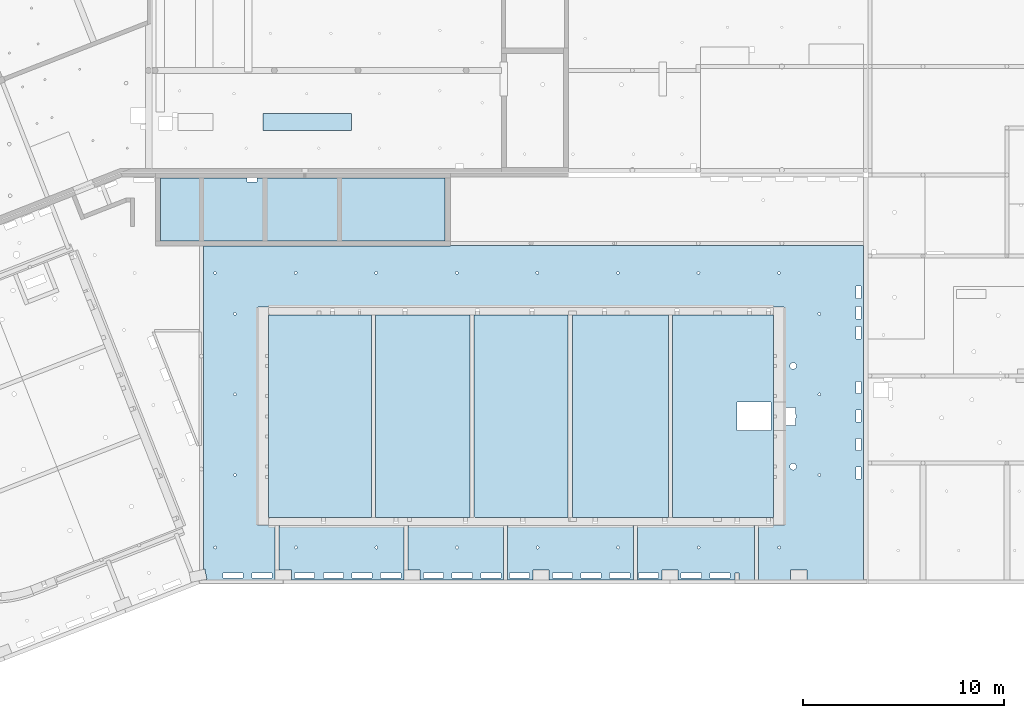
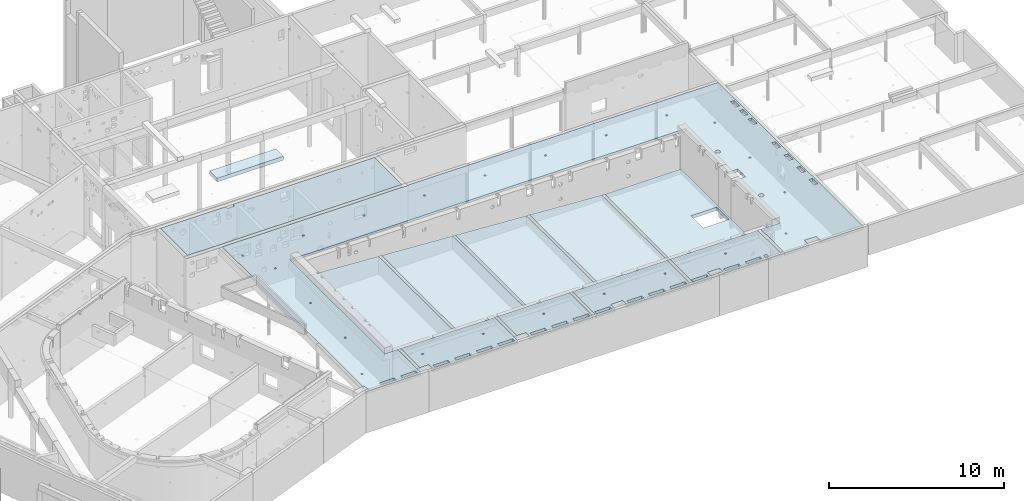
# One storey, part 9 of 28: 6 slabs, 51 openings.
"""IFC2X3 building model written with IfcOpenShell, lengths in metres."""

import ifcopenshell
import ifcopenshell.guid

model = None  # the IFC model being written
_history = None  # IfcOwnerHistory: only IFC2X3 demands one
_inside = {}  # id of a spatial element -> (the spatial element, [elements in it])
_under = {}  # id of a project, library or spatial element -> (it, [spatial elements below it])
_declared = {}  # id of a project -> (the project, [libraries it declares])
_typed = {}  # id of a type object -> (the type object, [elements of that type])
_made_of = {}  # id of a material, layer set ... -> (it, [elements and type objects made of it])


def new_model(schema):
    """Start an empty IFC model of exactly this schema.

    Asked for "IFC4X3", IfcOpenShell would pick the latest addendum, in which some entities
    have other attributes; the version numbers below select the first issue.
    IFC2X3 requires an IfcOwnerHistory on every rooted entity: one is made here for all.
    """
    global model, _history
    if schema == "IFC4X3":
        model = ifcopenshell.file(schema_version=(4, 3, 0, 0))
    else:
        model = ifcopenshell.file(schema=schema)
    _inside.clear()
    _under.clear()
    _declared.clear()
    _typed.clear()
    _made_of.clear()
    _history = None
    if model.schema == "IFC2X3":
        org = make("IfcOrganization", Name="unknown")
        user = make(
            "IfcPersonAndOrganization",
            ThePerson=make("IfcPerson", FamilyName="unknown"),
            TheOrganization=org,
        )
        app = make(
            "IfcApplication",
            ApplicationDeveloper=org,
            Version="unknown",
            ApplicationFullName="unknown",
            ApplicationIdentifier="unknown",
        )
        _history = make(
            "IfcOwnerHistory",
            OwningUser=user,
            OwningApplication=app,
            ChangeAction="ADDED",
            CreationDate=0,
        )
    return model


def make(cls, **values):
    """One entity of the class cls with the attributes given. An attribute that is None is left unset."""
    return model.create_entity(
        cls, **{name: value for name, value in values.items() if value is not None}
    )


def entity(cls, *values):
    """Any entity or typed value of the class cls, its attributes in the order of the schema. None: left unset."""
    e = model.create_entity(cls)
    for i, value in enumerate(values):
        if value is not None:
            e[i] = value
    return e


def rooted(cls, **values):
    """An entity with a GlobalId (a new one), such as an element, a storey or a relation."""
    return make(cls, GlobalId=ifcopenshell.guid.new(), OwnerHistory=_history, **values)


def si_unit(unit_type, name, prefix=None):
    """IfcSIUnit, for example si_unit("LENGTHUNIT", "METRE", prefix="MILLI")."""
    return make("IfcSIUnit", UnitType=unit_type, Prefix=prefix, Name=name)


def converted_unit(unit_type, name, factor, base, dimensions=None, offset=None):
    """IfcConversionBasedUnit, such as the inch: factor (a typed value) times the base unit."""
    return make(
        "IfcConversionBasedUnit"
        if offset is None
        else "IfcConversionBasedUnitWithOffset",
        ConversionOffset=offset,
        Dimensions=None
        if dimensions is None
        else entity("IfcDimensionalExponents", *dimensions),
        UnitType=unit_type,
        Name=name,
        ConversionFactor=make(
            "IfcMeasureWithUnit", ValueComponent=factor, UnitComponent=base
        ),
    )


def assignment(units):
    """IfcUnitAssignment: the units of a project."""
    return None if units is None else make("IfcUnitAssignment", Units=units)


def point(xyz):
    """IfcCartesianPoint."""
    return None if xyz is None else make("IfcCartesianPoint", Coordinates=xyz)


def direction(xyz):
    """IfcDirection."""
    return None if xyz is None else make("IfcDirection", DirectionRatios=xyz)


def frame(location, z_axis=None, x_axis=None):
    """IfcAxis2Placement3D, a coordinate frame: its origin and axes. An axis left out is left unset."""
    return make(
        "IfcAxis2Placement3D",
        Location=point(location),
        Axis=direction(z_axis),
        RefDirection=direction(x_axis),
    )


def frame_2d(location, x_axis=None):
    """IfcAxis2Placement2D, a coordinate frame in the plane: its origin and x axis."""
    return make(
        "IfcAxis2Placement2D", Location=point(location), RefDirection=direction(x_axis)
    )


def origin():
    """The frame at (0, 0, 0) with its axes left unset."""
    return frame((0.0, 0.0, 0.0))


def origin_with_axes():
    """The frame at (0, 0, 0) with the z axis (0, 0, 1) and the x axis (1, 0, 0) written out."""
    return frame((0.0, 0.0, 0.0), z_axis=(0.0, 0.0, 1.0), x_axis=(1.0, 0.0, 0.0))


def origin_2d_with_axis():
    """The frame at (0, 0) in the plane with the x axis (1, 0) written out."""
    return frame_2d((0.0, 0.0), x_axis=(1.0, 0.0))


def place(relative_to, where):
    """IfcLocalPlacement: puts the frame where relative to a parent placement (None: the world)."""
    return make(
        "IfcLocalPlacement", PlacementRelTo=relative_to, RelativePlacement=where
    )


def context(
    kind, dimensions, precision=None, world=None, true_north=None, identifier=None
):
    """IfcGeometricRepresentationContext, for example the 3D "Model" context."""
    return make(
        "IfcGeometricRepresentationContext",
        ContextIdentifier=identifier,
        ContextType=kind,
        CoordinateSpaceDimension=dimensions,
        Precision=precision,
        WorldCoordinateSystem=world,
        TrueNorth=true_north,
    )


def subcontext(parent, identifier, kind, view, scale=None):
    """IfcGeometricRepresentationSubContext, for example "Body" below "Model"."""
    return make(
        "IfcGeometricRepresentationSubContext",
        ContextIdentifier=identifier,
        ContextType=kind,
        ParentContext=parent,
        TargetScale=scale,
        TargetView=view,
    )


def project(units=None, contexts=None):
    """IfcProject with its units and contexts."""
    return rooted(
        "IfcProject",
        Name="project",
        RepresentationContexts=contexts,
        UnitsInContext=assignment(units),
    )


def spatial(cls, under=None, at=None, **own):
    """A site, building, storey or space (cls), placed at a placement, below another one or the project."""
    s = rooted(cls, ObjectPlacement=at, **own)
    if under is not None:
        _under.setdefault(under.id(), (under, []))[1].append(s)
    return s


def polyline(points):
    """IfcPolyline through the points."""
    return make("IfcPolyline", Points=[point(p) for p in points])


def profile(cls, at=None, kind="AREA", **sizes):
    """A parametric profile (cls). Its sizes go by their IFC names, for example OverallWidth=200.0."""
    return make(cls, ProfileType=kind, Position=at, **sizes)


def rectangle(**sizes):
    """IfcRectangleProfileDef."""
    return profile("IfcRectangleProfileDef", **sizes)


def circle(**sizes):
    """IfcCircleProfileDef."""
    return profile("IfcCircleProfileDef", **sizes)


def outline(outer, holes=None, kind="AREA"):
    """IfcArbitraryClosedProfileDef: a profile drawn as a closed curve; with holes, ...WithVoids."""
    if holes is None:
        return make("IfcArbitraryClosedProfileDef", ProfileType=kind, OuterCurve=outer)
    return make(
        "IfcArbitraryProfileDefWithVoids",
        ProfileType=kind,
        OuterCurve=outer,
        InnerCurves=holes,
    )


def extrude(swept, where, along, depth):
    """IfcExtrudedAreaSolid: the profile swept, set in the frame where, extruded along a direction by depth."""
    return make(
        "IfcExtrudedAreaSolid",
        SweptArea=swept,
        Position=where,
        ExtrudedDirection=direction(along),
        Depth=depth,
    )


def shape(context_of_items, identifier, shape_type, items):
    """IfcShapeRepresentation: the items that make up one representation, for example the "Body"."""
    return make(
        "IfcShapeRepresentation",
        ContextOfItems=context_of_items,
        RepresentationIdentifier=identifier,
        RepresentationType=shape_type,
        Items=items,
    )


def material(Name=None, Category=None):
    """IfcMaterial."""
    return make("IfcMaterial", Name=Name, Category=Category)


def made_of(thing, what):
    """Note that an element or type object is made of a material, layer set ...; save() writes the relation."""
    if what is not None:
        _made_of.setdefault(what.id(), (what, []))[1].append(thing)
    return thing


def element(
    cls,
    number,
    at=None,
    inside=None,
    cuts=None,
    type_object=None,
    material=None,
    context=None,
    identifier="Body",
    shape_type=None,
    held_by="IfcProductDefinitionShape",
    body=None,
    shapes=None,
    **own,
):
    """One element of the class cls, such as IfcWall. Its Tag is "e" and its number.

    at: its placement. inside: the storey or other place that contains it. cuts: it is an
    opening in that element (IfcRelVoidsElement). A single representation is given by context,
    identifier, shape_type and body (its items); several are given by shapes. held_by: the class
    of the entity that holds the representations. save() writes the other relations.
    """
    e = rooted(cls, Tag="e%d" % number, ObjectPlacement=at, **own)
    if body is not None:
        shapes = [shape(context, identifier, shape_type, body)]
    if shapes is not None:
        e.Representation = make(held_by, Representations=shapes)
    if inside is not None:
        _inside.setdefault(inside.id(), (inside, []))[1].append(e)
    if cuts is not None:
        rooted(
            "IfcRelVoidsElement", RelatingBuildingElement=cuts, RelatedOpeningElement=e
        )
    if type_object is not None:
        _typed.setdefault(type_object.id(), (type_object, []))[1].append(e)
    return made_of(e, material)


def aggregate(whole, parts):
    """IfcRelAggregates: a whole, such as a stair, and the parts it consists of."""
    return rooted("IfcRelAggregates", RelatingObject=whole, RelatedObjects=parts)


def save(model, path):
    """Write the relations noted so far, then the file.

    IfcRelAggregates (storeys below a building ...), IfcRelContainedInSpatialStructure (elements
    in a storey), IfcRelDefinesByType, IfcRelAssociatesMaterial and IfcRelDeclares: one each for
    every whole, place, type object, material and project.
    """
    for whole, parts in _under.values():
        aggregate(whole, parts)
    for where, things in _inside.values():
        rooted(
            "IfcRelContainedInSpatialStructure",
            RelatedElements=things,
            RelatingStructure=where,
        )
    for kind, things in _typed.values():
        rooted("IfcRelDefinesByType", RelatedObjects=things, RelatingType=kind)
    for what, things in _made_of.values():
        rooted("IfcRelAssociatesMaterial", RelatedObjects=things, RelatingMaterial=what)
    for by, libraries in _declared.values():
        rooted("IfcRelDeclares", RelatingContext=by, RelatedDefinitions=libraries)
    model.write(path)


model = new_model("IFC2X3")

# Units and contexts
model_context = context("Model", 3, precision=1e-05, world=origin(), true_north=direction((-0.407059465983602, -0.913401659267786)))
body_context = subcontext(model_context, "Body", "Model", "MODEL_VIEW")
ifc_project = project(units=[si_unit("LENGTHUNIT", "METRE"), si_unit("AREAUNIT", "SQUARE_METRE"), si_unit("VOLUMEUNIT", "CUBIC_METRE"), si_unit("MASSUNIT", "GRAM", prefix="KILO"), converted_unit("PLANEANGLEUNIT", "DEGREE", entity("IfcPlaneAngleMeasure", 0.0174532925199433), si_unit("PLANEANGLEUNIT", "RADIAN"), dimensions=[0, 0, 0, 0, 0, 0, 0])], contexts=[model_context])

# Site, buildings, storey
site_placement = place(None, origin())
site = spatial("IfcSite", under=ifc_project, at=site_placement, Name="Site", CompositionType="ELEMENT")
building_1_placement = place(site_placement, origin())
building_1 = spatial("IfcBuilding", under=site, at=building_1_placement, Name="Site", CompositionType="COMPLEX")
building_2_placement = place(building_1_placement, origin())
building_2 = spatial("IfcBuilding", under=building_1, at=building_2_placement, Name="Bâtiments", CompositionType="ELEMENT")
storey_placement = place(building_2_placement, frame((0.0, 0.0, -5.3)))
storey = spatial("IfcBuildingStorey", under=building_2, at=storey_placement, Name="SOUS-SOL", CompositionType="ELEMENT", Elevation=-5.3)

# Slab
ifc_material_1 = material(Name="Dalle_BA")
slab_1_placement = place(storey_placement, frame((33.4095422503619, -3.1373755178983, 5.18)))
element("IfcSlab", 1, at=slab_1_placement, inside=storey, material=ifc_material_1, PredefinedType="FLOOR", context=body_context, shape_type="SweptSolid", body=[
    extrude(rectangle(XDim=0.860000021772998, YDim=4.385, at=frame_2d((2.1925, -0.430000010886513), x_axis=(0.0, -1.0))), frame((0.0, 0.860000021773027, 0.0), z_axis=(0.0, 0.0, 1.0), x_axis=(1.0, 0.0, 0.0)), (0.0, 0.0, 1.0), 0.26),
])

# Slab, openings
ifc_material_2 = material(Name="Dalle_BA")
slab_2_placement = place(storey_placement, frame((34.2084466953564, -25.4449220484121, 4.96)))
slab_2 = element("IfcSlab", 2, at=slab_2_placement, inside=storey, material=ifc_material_2, PredefinedType="FLOOR", context=body_context, shape_type="SweptSolid", body=[
    extrude(outline(polyline([(1.26235432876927, 0.500018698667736), (2.0623543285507, 0.499999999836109), (2.06234264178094, 0.0), (6.24956987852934, 0.0), (6.24956987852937, 2.69561619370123), (0.0, 2.69561619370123), (2.91038304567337e-14, 0.0), (1.26234264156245, 0.0), (1.26235432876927, 0.500018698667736)])), frame((11.3353680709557, 0.0, 0.0), z_axis=(0.0, 0.0, 1.0), x_axis=(1.0, 0.0, 0.0)), (0.0, 0.0, 1.0), 0.2),
    extrude(outline(polyline([(2.18278728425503e-14, 0.500014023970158), (0.600000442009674, 0.499999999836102), (0.599988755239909, 0.0), (6.19880320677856, 0.0), (6.19881489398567, 0.500018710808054), (6.19881489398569, 2.69561619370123), (0.0, 2.69561619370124), (2.18278728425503e-14, 0.500014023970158)])), origin_with_axes(), (0.0, 0.0, 1.0), 0.2),
    extrude(outline(polyline([(1.21160579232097, 0.0), (1.21161747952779, 0.500018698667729), (2.01161747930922, 0.499999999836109), (2.01160579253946, 0.0), (4.8426022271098, 0.0), (4.84257973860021, 0.352691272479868), (5.04257973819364, 0.352704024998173), (5.04260222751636, 0.0), (5.80000044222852, 0.0), (5.80000044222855, 2.69561619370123), (0.0, 2.69561619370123), (2.91038304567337e-14, 0.0), (1.21160579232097, 0.0)])), frame((17.7849375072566, 0.0, 0.0), z_axis=(0.0, 0.0, 1.0), x_axis=(1.0, 0.0, 0.0)), (0.0, 0.0, 1.0), 0.2),
    extrude(outline(polyline([(4.73655406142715, 2.69561619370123), (0.0, 2.69561619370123), (2.18278728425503e-14, 0.500014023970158), (0.600000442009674, 0.499999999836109), (0.599988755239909, 0.0), (4.73655406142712, 0.0), (4.73655406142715, 2.69561619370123)])), frame((6.39881445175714, 0.0, 0.0), z_axis=(0.0, 0.0, 1.0), x_axis=(1.0, 0.0, 0.0)), (0.0, 0.0, 1.0), 0.2),
])
opening_1_placement = place(slab_2_placement, frame((21.3842891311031, 0.090886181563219, 0.0)))
element("IfcOpeningElement", 3, at=opening_1_placement, cuts=slab_2, Name="Trémie dans dalle", ObjectType="Opening", context=body_context, shape_type="SweptSolid", body=[
    extrude(rectangle(XDim=0.25, YDim=1.0, at=frame_2d((-7.27595761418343e-15, -3.63797880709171e-15), x_axis=(0.0, -1.0))), frame((0.500000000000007, 0.125000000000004, 0.0), z_axis=(0.0, 0.0, 1.0), x_axis=(1.0, 0.0, 0.0)), (0.0, 0.0, 1.0), 0.2),
])
opening_2_placement = place(slab_2_placement, frame((19.9592891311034, 0.0908872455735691, 0.0)))
element("IfcOpeningElement", 4, at=opening_2_placement, cuts=slab_2, Name="Trémie dans dalle", ObjectType="Opening", context=body_context, shape_type="SweptSolid", body=[
    extrude(rectangle(XDim=0.25, YDim=1.0, at=frame_2d((-1.45519152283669e-14, 0.0), x_axis=(0.0, -1.0))), frame((0.500000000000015, 0.125, 0.0), z_axis=(0.0, 0.0, 1.0), x_axis=(1.0, 0.0, 0.0)), (0.0, 0.0, 1.0), 0.2),
])
opening_3_placement = place(slab_2_placement, frame((17.8342886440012, 0.0920111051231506, 0.0)))
element("IfcOpeningElement", 5, at=opening_3_placement, cuts=slab_2, Name="Trémie dans dalle", ObjectType="Opening", context=body_context, shape_type="SweptSolid", body=[
    extrude(rectangle(XDim=0.25, YDim=1.0, at=frame_2d((0.0, 0.0), x_axis=(0.0, -1.0))), frame((0.5, 0.125, 0.0), z_axis=(0.0, 0.0, 1.0), x_axis=(1.0, 0.0, 0.0)), (0.0, 0.0, 1.0), 0.2),
])
opening_4_placement = place(slab_2_placement, frame((16.4092886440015, 0.0908861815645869, 0.0)))
element("IfcOpeningElement", 6, at=opening_4_placement, cuts=slab_2, Name="Trémie dans dalle", ObjectType="Opening", context=body_context, shape_type="SweptSolid", body=[
    extrude(rectangle(XDim=0.25, YDim=1.0, at=frame_2d((0.0, -3.63797880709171e-15), x_axis=(0.0, -1.0))), frame((0.5, 0.125000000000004, 0.0), z_axis=(0.0, 0.0, 1.0), x_axis=(1.0, 0.0, 0.0)), (0.0, 0.0, 1.0), 0.2),
])
opening_5_placement = place(slab_2_placement, frame((14.9854710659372, 0.090886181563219, 0.0)))
element("IfcOpeningElement", 7, at=opening_5_placement, cuts=slab_2, Name="Trémie dans dalle", ObjectType="Opening", context=body_context, shape_type="SweptSolid", body=[
    extrude(rectangle(XDim=0.25, YDim=1.0, at=frame_2d((0.0, -3.63797880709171e-15), x_axis=(0.0, -1.0))), frame((0.5, 0.125000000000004, 0.0), z_axis=(0.0, 0.0, 1.0), x_axis=(1.0, 0.0, 0.0)), (0.0, 0.0, 1.0), 0.2),
])
opening_6_placement = place(slab_2_placement, frame((13.5604710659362, 0.090886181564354, 0.0)))
element("IfcOpeningElement", 8, at=opening_6_placement, cuts=slab_2, Name="Trémie dans dalle", ObjectType="Opening", context=body_context, shape_type="SweptSolid", body=[
    extrude(rectangle(XDim=0.25, YDim=1.0, at=frame_2d((0.0, -3.63797880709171e-15), x_axis=(0.0, -1.0))), frame((0.5, 0.125000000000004, 0.0), z_axis=(0.0, 0.0, 1.0), x_axis=(1.0, 0.0, 0.0)), (0.0, 0.0, 1.0), 0.2),
])
opening_7_placement = place(slab_2_placement, frame((11.4365708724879, 0.090886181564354, 0.0)))
element("IfcOpeningElement", 9, at=opening_7_placement, cuts=slab_2, Name="Trémie dans dalle", ObjectType="Opening", context=body_context, shape_type="SweptSolid", body=[
    extrude(rectangle(XDim=0.25, YDim=1.0, at=frame_2d((0.0, -3.63797880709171e-15), x_axis=(0.0, -1.0))), frame((0.5, 0.125000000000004, 0.0), z_axis=(0.0, 0.0, 1.0), x_axis=(1.0, 0.0, 0.0)), (0.0, 0.0, 1.0), 0.2),
])
opening_8_placement = place(slab_2_placement, frame((10.0115708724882, 0.0908861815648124, 0.0)))
element("IfcOpeningElement", 10, at=opening_8_placement, cuts=slab_2, Name="Trémie dans dalle", ObjectType="Opening", context=body_context, shape_type="SweptSolid", body=[
    extrude(rectangle(XDim=0.25, YDim=1.0, at=frame_2d((0.0, 0.0), x_axis=(0.0, -1.0))), frame((0.5, 0.125, 0.0), z_axis=(0.0, 0.0, 1.0), x_axis=(1.0, 0.0, 0.0)), (0.0, 0.0, 1.0), 0.2),
])
opening_9_placement = place(slab_2_placement, frame((8.58657087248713, 0.0908861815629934, 0.0)))
element("IfcOpeningElement", 11, at=opening_9_placement, cuts=slab_2, Name="Trémie dans dalle", ObjectType="Opening", context=body_context, shape_type="SweptSolid", body=[
    extrude(rectangle(XDim=0.25, YDim=1.0, at=frame_2d((0.0, 0.0), x_axis=(0.0, -1.0))), frame((0.5, 0.125, 0.0), z_axis=(0.0, 0.0, 1.0), x_axis=(1.0, 0.0, 0.0)), (0.0, 0.0, 1.0), 0.2),
])
opening_10_placement = place(slab_2_placement, frame((7.16157087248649, 0.090887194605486, 0.0)))
element("IfcOpeningElement", 12, at=opening_10_placement, cuts=slab_2, Name="Trémie dans dalle", ObjectType="Opening", context=body_context, shape_type="SweptSolid", body=[
    extrude(rectangle(XDim=0.25, YDim=1.0, at=frame_2d((0.0, 0.0), x_axis=(0.0, -1.0))), frame((0.5, 0.125, 0.0), z_axis=(0.0, 0.0, 1.0), x_axis=(1.0, 0.0, 0.0)), (0.0, 0.0, 1.0), 0.2),
])
opening_11_placement = place(slab_2_placement, frame((5.03775281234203, 0.0908861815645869, 0.0)))
element("IfcOpeningElement", 13, at=opening_11_placement, cuts=slab_2, Name="Trémie dans dalle", ObjectType="Opening", context=body_context, shape_type="SweptSolid", body=[
    extrude(rectangle(XDim=0.25, YDim=1.0, at=frame_2d((0.0, -3.63797880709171e-15), x_axis=(0.0, -1.0))), frame((0.5, 0.125000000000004, 0.0), z_axis=(0.0, 0.0, 1.0), x_axis=(1.0, 0.0, 0.0)), (0.0, 0.0, 1.0), 0.2),
])
opening_12_placement = place(slab_2_placement, frame((3.61275281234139, 0.0908861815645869, 0.0)))
element("IfcOpeningElement", 14, at=opening_12_placement, cuts=slab_2, Name="Trémie dans dalle", ObjectType="Opening", context=body_context, shape_type="SweptSolid", body=[
    extrude(rectangle(XDim=0.25, YDim=1.0, at=frame_2d((0.0, -3.63797880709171e-15), x_axis=(0.0, -1.0))), frame((0.5, 0.125000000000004, 0.0), z_axis=(0.0, 0.0, 1.0), x_axis=(1.0, 0.0, 0.0)), (0.0, 0.0, 1.0), 0.2),
])
opening_13_placement = place(slab_2_placement, frame((2.18775281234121, 0.090886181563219, 0.0)))
element("IfcOpeningElement", 15, at=opening_13_placement, cuts=slab_2, Name="Trémie dans dalle", ObjectType="Opening", context=body_context, shape_type="SweptSolid", body=[
    extrude(rectangle(XDim=0.25, YDim=1.0, at=frame_2d((0.0, -3.63797880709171e-15), x_axis=(0.0, -1.0))), frame((0.5, 0.125000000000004, 0.0), z_axis=(0.0, 0.0, 1.0), x_axis=(1.0, 0.0, 0.0)), (0.0, 0.0, 1.0), 0.2),
])
opening_14_placement = place(slab_2_placement, frame((0.762752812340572, 0.090886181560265, 0.0)))
element("IfcOpeningElement", 16, at=opening_14_placement, cuts=slab_2, Name="Trémie dans dalle", ObjectType="Opening", context=body_context, shape_type="SweptSolid", body=[
    extrude(rectangle(XDim=0.25, YDim=1.0, at=frame_2d((0.0, 3.63797880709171e-15), x_axis=(0.0, -1.0))), frame((0.5, 0.124999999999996, 0.0), z_axis=(0.0, 0.0, 1.0), x_axis=(1.0, 0.0, 0.0)), (0.0, 0.0, 1.0), 0.2),
])
opening_15_placement = place(slab_2_placement, frame((20.7599072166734, 1.54600659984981, 0.0)))
element("IfcOpeningElement", 17, at=opening_15_placement, cuts=slab_2, Name="Trémie dans dalle", ObjectType="Opening", context=body_context, shape_type="SweptSolid", body=[
    extrude(circle(Radius=0.0650000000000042, at=frame_2d((-2.18278728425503e-14, 3.63797880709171e-15), x_axis=(1.0, 0.0))), frame((0.0647317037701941, 0.0647317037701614, 0.0), z_axis=(0.0, 0.0, 1.0), x_axis=(1.0, 0.0, 0.0)), (0.0, 0.0, 1.0), 0.2),
])
opening_16_placement = place(slab_2_placement, frame((16.7599435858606, 1.54600659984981, 0.0)))
element("IfcOpeningElement", 18, at=opening_16_placement, cuts=slab_2, Name="Trémie dans dalle", ObjectType="Opening", context=body_context, shape_type="SweptSolid", body=[
    extrude(circle(Radius=0.0650000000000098, at=frame_2d((-1.45519152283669e-14, 3.63797880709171e-15), x_axis=(1.0, 0.0))), frame((0.0647317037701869, 0.0647317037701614, 0.0), z_axis=(0.0, 0.0, 1.0), x_axis=(1.0, 0.0, 0.0)), (0.0, 0.0, 1.0), 0.2),
])
opening_17_placement = place(slab_2_placement, frame((12.7605774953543, 1.54600659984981, 0.0)))
element("IfcOpeningElement", 19, at=opening_17_placement, cuts=slab_2, Name="Trémie dans dalle", ObjectType="Opening", context=body_context, shape_type="SweptSolid", body=[
    extrude(circle(Radius=0.0650000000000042, at=frame_2d((0.0, 3.63797880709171e-15), x_axis=(1.0, 0.0))), frame((0.0647317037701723, 0.0647317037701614, 0.0), z_axis=(0.0, 0.0, 1.0), x_axis=(1.0, 0.0, 0.0)), (0.0, 0.0, 1.0), 0.2),
])
opening_18_placement = place(slab_2_placement, frame((8.76048055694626, 1.54600659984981, 0.0)))
element("IfcOpeningElement", 20, at=opening_18_placement, cuts=slab_2, Name="Trémie dans dalle", ObjectType="Opening", context=body_context, shape_type="SweptSolid", body=[
    extrude(circle(Radius=0.0650000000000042, at=frame_2d((0.0, 3.63797880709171e-15), x_axis=(1.0, 0.0))), frame((0.0647317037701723, 0.0647317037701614, 0.0), z_axis=(0.0, 0.0, 1.0), x_axis=(1.0, 0.0, 0.0)), (0.0, 0.0, 1.0), 0.2),
])
opening_19_placement = place(slab_2_placement, frame((4.76149863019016, 1.54600659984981, 0.0)))
element("IfcOpeningElement", 21, at=opening_19_placement, cuts=slab_2, Name="Trémie dans dalle", ObjectType="Opening", context=body_context, shape_type="SweptSolid", body=[
    extrude(circle(Radius=0.0650000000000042, at=frame_2d((0.0, 3.63797880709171e-15), x_axis=(1.0, 0.0))), frame((0.0647317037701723, 0.0647317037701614, 0.0), z_axis=(0.0, 0.0, 1.0), x_axis=(1.0, 0.0, 0.0)), (0.0, 0.0, 1.0), 0.2),
])
opening_20_placement = place(slab_2_placement, frame((0.760856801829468, 1.54600659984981, 0.0)))
element("IfcOpeningElement", 22, at=opening_20_placement, cuts=slab_2, Name="Trémie dans dalle", ObjectType="Opening", context=body_context, shape_type="SweptSolid", body=[
    extrude(circle(Radius=0.0650000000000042, at=frame_2d((-1.45519152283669e-14, 3.63797880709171e-15), x_axis=(1.0, 0.0))), frame((0.0647317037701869, 0.0647317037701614, 0.0), z_axis=(0.0, 0.0, 1.0), x_axis=(1.0, 0.0, 0.0)), (0.0, 0.0, 1.0), 0.2),
])

# Slab, opening
ifc_material_3 = material(Name="Dalle_BA")
slab_3_placement = place(storey_placement, frame((28.3161922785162, -8.60897458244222, 4.91)))
slab_3 = element("IfcSlab", 23, at=slab_3_placement, inside=storey, material=ifc_material_3, PredefinedType="FLOOR", context=body_context, shape_type="SweptSolid", body=[
    extrude(outline(polyline([(0.0, 5.74665508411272e-05), (14.1334228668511, 0.0), (14.1336866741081, 3.12008496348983), (0.0, 3.12008496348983), (0.0, 5.74665508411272e-05)])), origin_with_axes(), (0.0, 0.0, 1.0), 0.25),
])
opening_21_placement = place(slab_3_placement, frame((4.28143813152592, 2.92053893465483, 0.0)))
element("IfcOpeningElement", 24, at=opening_21_placement, cuts=slab_3, Name="Trémie dans dalle", ObjectType="Opening", context=body_context, shape_type="SweptSolid", body=[
    extrude(rectangle(XDim=0.5, YDim=0.2, at=frame_2d((0.0, 9.09494701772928e-16), x_axis=(1.0, 0.0))), frame((0.25, 0.0999999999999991, 0.0), z_axis=(0.0, 0.0, 1.0), x_axis=(1.0, 0.0, 0.0)), (0.0, 0.0, 1.0), 0.25),
])

# Slab, openings
ifc_material_4 = material(Name="Dalle_BA")
slab_4_placement = place(storey_placement, frame((30.4060804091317, -25.4449458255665, 4.96)))
slab_4 = element("IfcSlab", 25, at=slab_4_placement, inside=storey, material=ifc_material_4, PredefinedType="FLOOR", context=body_context, shape_type="SweptSolid", body=[
    extrude(outline(polyline([(0.0379101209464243, 13.2837729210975), (0.0378084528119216, 0.518182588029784), (0.106922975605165, 0.532356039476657), (0.20736861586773, 0.0425492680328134), (0.0, 2.37771544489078e-05), (3.60235504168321, 4.24759587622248e-05), (3.60236672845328, 2.69564013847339), (2.7473038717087, 2.69563997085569), (2.7473038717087, 13.5456399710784), (28.8673038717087, 13.5456399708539), (28.8673080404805, 2.69471830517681), (27.5873037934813, 2.69564013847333), (27.5873037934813, 2.37771543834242e-05), (29.1958943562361, 1.86988316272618e-05), (29.1959060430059, 0.50001869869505), (29.9959060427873, 0.499999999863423), (29.9958943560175, 0.0), (32.8072044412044, 2.37771544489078e-05), (32.8072724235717, 16.6110110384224), (12.2935208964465, 16.6110352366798), (12.2935205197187, 16.585970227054), (0.0379464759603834, 16.586013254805), (0.0379101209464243, 13.2837729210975)])), origin_with_axes(), (0.0, 0.0, 1.0), 0.2),
])
opening_22_placement = place(slab_4_placement, frame((29.1567603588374, 7.96681226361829, 0.0)))
element("IfcOpeningElement", 26, at=opening_22_placement, cuts=slab_4, Name="Trémie dans dalle", ObjectType="Opening", context=body_context, shape_type="SweptSolid", body=[
    extrude(circle(Radius=0.160000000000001, at=frame_2d((-2.91038304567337e-14, 0.0), x_axis=(1.0, 0.0))), frame((0.159339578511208, 0.159339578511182, 0.0), z_axis=(0.0, 0.0, 1.0), x_axis=(1.0, 0.0, 0.0)), (0.0, 0.0, 1.0), 0.2),
])
opening_23_placement = place(slab_4_placement, frame((28.8673057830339, 7.67063997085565, 0.0)))
element("IfcOpeningElement", 27, at=opening_23_placement, cuts=slab_4, Name="Trémie dans dalle", ObjectType="Opening", context=body_context, shape_type="SweptSolid", body=[
    extrude(outline(polyline([(-0.287499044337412, -0.44999999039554), (0.287499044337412, -0.449999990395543), (0.287499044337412, 0.450000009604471), (-0.287499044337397, 0.449999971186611), (-0.287499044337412, -0.44999999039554)])), frame((0.287499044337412, 0.449999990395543, 0.0), z_axis=(0.0, 0.0, 1.0), x_axis=(1.0, 0.0, 0.0)), (0.0, 0.0, 1.0), 0.2),
])
opening_24_placement = place(slab_4_placement, frame((29.1567534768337, 5.46681226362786, 0.0)))
element("IfcOpeningElement", 28, at=opening_24_placement, cuts=slab_4, Name="Trémie dans dalle", ObjectType="Opening", context=body_context, shape_type="SweptSolid", body=[
    extrude(circle(Radius=0.160000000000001, at=frame_2d((1.45519152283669e-14, 0.0), x_axis=(1.0, 0.0))), frame((0.159339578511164, 0.159339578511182, 0.0), z_axis=(0.0, 0.0, 1.0), x_axis=(1.0, 0.0, 0.0)), (0.0, 0.0, 1.0), 0.2),
])
opening_25_placement = place(slab_4_placement, frame((29.1567672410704, 10.466812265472, 0.0)))
element("IfcOpeningElement", 29, at=opening_25_placement, cuts=slab_4, Name="Trémie dans dalle", ObjectType="Opening", context=body_context, shape_type="SweptSolid", body=[
    extrude(circle(Radius=0.160000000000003, at=frame_2d((7.27595761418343e-15, 1.81898940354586e-15), x_axis=(1.0, 0.0))), frame((0.159339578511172, 0.159339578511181, 0.0), z_axis=(0.0, 0.0, 1.0), x_axis=(1.0, 0.0, 0.0)), (0.0, 0.0, 1.0), 0.2),
])
opening_26_placement = place(slab_4_placement, frame((1.53873814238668, 5.14937786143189, 0.0)))
element("IfcOpeningElement", 30, at=opening_26_placement, cuts=slab_4, Name="Trémie dans dalle", ObjectType="Opening", context=body_context, shape_type="SweptSolid", body=[
    extrude(circle(Radius=0.064999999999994, at=frame_2d((1.09139364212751e-14, 0.0), x_axis=(1.0, 0.0))), frame((0.0647317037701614, 0.0647317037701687, 0.0), z_axis=(0.0, 0.0, 1.0), x_axis=(1.0, 0.0, 0.0)), (0.0, 0.0, 1.0), 0.2),
])
opening_27_placement = place(slab_4_placement, frame((1.53873814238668, 9.1497353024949, 0.0)))
element("IfcOpeningElement", 31, at=opening_27_placement, cuts=slab_4, Name="Trémie dans dalle", ObjectType="Opening", context=body_context, shape_type="SweptSolid", body=[
    extrude(circle(Radius=0.0649999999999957, at=frame_2d((1.09139364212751e-14, 3.63797880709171e-15), x_axis=(1.0, 0.0))), frame((0.0647317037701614, 0.0647317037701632, 0.0), z_axis=(0.0, 0.0, 1.0), x_axis=(1.0, 0.0, 0.0)), (0.0, 0.0, 1.0), 0.2),
])
opening_28_placement = place(slab_4_placement, frame((0.562774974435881, 1.54603037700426, 0.0)))
element("IfcOpeningElement", 32, at=opening_28_placement, cuts=slab_4, Name="Trémie dans dalle", ObjectType="Opening", context=body_context, shape_type="SweptSolid", body=[
    extrude(circle(Radius=0.0650000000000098, at=frame_2d((7.27595761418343e-15, 3.63797880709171e-15), x_axis=(1.0, 0.0))), frame((0.064731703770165, 0.0647317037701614, 0.0), z_axis=(0.0, 0.0, 1.0), x_axis=(1.0, 0.0, 0.0)), (0.0, 0.0, 1.0), 0.2),
])
opening_29_placement = place(slab_4_placement, frame((28.5624759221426, 1.54603037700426, 0.0)))
element("IfcOpeningElement", 33, at=opening_29_placement, cuts=slab_4, Name="Trémie dans dalle", ObjectType="Opening", context=body_context, shape_type="SweptSolid", body=[
    extrude(circle(Radius=0.0650000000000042, at=frame_2d((-7.27595761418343e-15, 3.63797880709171e-15), x_axis=(1.0, 0.0))), frame((0.0647317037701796, 0.0647317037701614, 0.0), z_axis=(0.0, 0.0, 1.0), x_axis=(1.0, 0.0, 0.0)), (0.0, 0.0, 1.0), 0.2),
])
opening_30_placement = place(slab_4_placement, frame((30.5579559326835, 5.14955493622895, 0.0)))
element("IfcOpeningElement", 34, at=opening_30_placement, cuts=slab_4, Name="Trémie dans dalle", ObjectType="Opening", context=body_context, shape_type="SweptSolid", body=[
    extrude(circle(Radius=0.0650000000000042, at=origin_2d_with_axis()), frame((0.0647317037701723, 0.064731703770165, 0.0), z_axis=(0.0, 0.0, 1.0), x_axis=(1.0, 0.0, 0.0)), (0.0, 0.0, 1.0), 0.2),
])
opening_31_placement = place(slab_4_placement, frame((30.5579559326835, 9.14859514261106, 0.0)))
element("IfcOpeningElement", 35, at=opening_31_placement, cuts=slab_4, Name="Trémie dans dalle", ObjectType="Opening", context=body_context, shape_type="SweptSolid", body=[
    extrude(circle(Radius=0.0649999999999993, at=frame_2d((-1.45519152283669e-14, -1.81898940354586e-15), x_axis=(1.0, 0.0))), frame((0.0647317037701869, 0.0647317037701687, 0.0), z_axis=(0.0, 0.0, 1.0), x_axis=(1.0, 0.0, 0.0)), (0.0, 0.0, 1.0), 0.2),
])
opening_32_placement = place(slab_4_placement, frame((30.5579559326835, 13.1498519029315, 0.0)))
element("IfcOpeningElement", 36, at=opening_32_placement, cuts=slab_4, Name="Trémie dans dalle", ObjectType="Opening", context=body_context, shape_type="SweptSolid", body=[
    extrude(circle(Radius=0.0649999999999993, at=frame_2d((-1.45519152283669e-14, 0.0), x_axis=(1.0, 0.0))), frame((0.0647317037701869, 0.0647317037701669, 0.0), z_axis=(0.0, 0.0, 1.0), x_axis=(1.0, 0.0, 0.0)), (0.0, 0.0, 1.0), 0.2),
])
opening_33_placement = place(slab_4_placement, frame((28.5522518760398, 15.1784593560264, 0.0)))
element("IfcOpeningElement", 37, at=opening_33_placement, cuts=slab_4, Name="Trémie dans dalle", ObjectType="Opening", context=body_context, shape_type="SweptSolid", body=[
    extrude(circle(Radius=0.0649999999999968, at=frame_2d((-7.27595761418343e-15, 0.0), x_axis=(1.0, 0.0))), frame((0.0647317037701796, 0.0647317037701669, 0.0), z_axis=(0.0, 0.0, 1.0), x_axis=(1.0, 0.0, 0.0)), (0.0, 0.0, 1.0), 0.2),
])
opening_34_placement = place(slab_4_placement, frame((24.5528807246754, 15.1784593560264, 0.0)))
element("IfcOpeningElement", 38, at=opening_34_placement, cuts=slab_4, Name="Trémie dans dalle", ObjectType="Opening", context=body_context, shape_type="SweptSolid", body=[
    extrude(circle(Radius=0.0649999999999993, at=frame_2d((-7.27595761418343e-15, 0.0), x_axis=(1.0, 0.0))), frame((0.0647317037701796, 0.0647317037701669, 0.0), z_axis=(0.0, 0.0, 1.0), x_axis=(1.0, 0.0, 0.0)), (0.0, 0.0, 1.0), 0.2),
])
opening_35_placement = place(slab_4_placement, frame((20.5524805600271, 15.1784593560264, 0.0)))
element("IfcOpeningElement", 39, at=opening_35_placement, cuts=slab_4, Name="Trémie dans dalle", ObjectType="Opening", context=body_context, shape_type="SweptSolid", body=[
    extrude(circle(Radius=0.0649999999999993, at=frame_2d((-1.45519152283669e-14, 0.0), x_axis=(1.0, 0.0))), frame((0.0647317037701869, 0.0647317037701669, 0.0), z_axis=(0.0, 0.0, 1.0), x_axis=(1.0, 0.0, 0.0)), (0.0, 0.0, 1.0), 0.2),
])
opening_36_placement = place(slab_4_placement, frame((16.5527814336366, 15.1784593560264, 0.0)))
element("IfcOpeningElement", 40, at=opening_36_placement, cuts=slab_4, Name="Trémie dans dalle", ObjectType="Opening", context=body_context, shape_type="SweptSolid", body=[
    extrude(circle(Radius=0.0649999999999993, at=frame_2d((-7.27595761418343e-15, 0.0), x_axis=(1.0, 0.0))), frame((0.0647317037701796, 0.0647317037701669, 0.0), z_axis=(0.0, 0.0, 1.0), x_axis=(1.0, 0.0, 0.0)), (0.0, 0.0, 1.0), 0.2),
])
opening_37_placement = place(slab_4_placement, frame((12.552102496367, 15.1784593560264, 0.0)))
element("IfcOpeningElement", 41, at=opening_37_placement, cuts=slab_4, Name="Trémie dans dalle", ObjectType="Opening", context=body_context, shape_type="SweptSolid", body=[
    extrude(circle(Radius=0.0649999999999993, at=frame_2d((-7.27595761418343e-15, 0.0), x_axis=(1.0, 0.0))), frame((0.0647317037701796, 0.0647317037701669, 0.0), z_axis=(0.0, 0.0, 1.0), x_axis=(1.0, 0.0, 0.0)), (0.0, 0.0, 1.0), 0.2),
])
opening_38_placement = place(slab_4_placement, frame((8.55276459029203, 15.1784593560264, 0.0)))
element("IfcOpeningElement", 42, at=opening_38_placement, cuts=slab_4, Name="Trémie dans dalle", ObjectType="Opening", context=body_context, shape_type="SweptSolid", body=[
    extrude(circle(Radius=0.0649999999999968, at=frame_2d((-7.27595761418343e-15, 0.0), x_axis=(1.0, 0.0))), frame((0.0647317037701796, 0.0647317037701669, 0.0), z_axis=(0.0, 0.0, 1.0), x_axis=(1.0, 0.0, 0.0)), (0.0, 0.0, 1.0), 0.2),
])
opening_39_placement = place(slab_4_placement, frame((4.5525630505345, 15.1784593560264, 0.0)))
element("IfcOpeningElement", 43, at=opening_39_placement, cuts=slab_4, Name="Trémie dans dalle", ObjectType="Opening", context=body_context, shape_type="SweptSolid", body=[
    extrude(circle(Radius=0.0649999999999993, at=frame_2d((-7.27595761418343e-15, 0.0), x_axis=(1.0, 0.0))), frame((0.0647317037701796, 0.0647317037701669, 0.0), z_axis=(0.0, 0.0, 1.0), x_axis=(1.0, 0.0, 0.0)), (0.0, 0.0, 1.0), 0.2),
])
opening_40_placement = place(slab_4_placement, frame((0.551426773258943, 15.1784593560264, 0.0)))
element("IfcOpeningElement", 44, at=opening_40_placement, cuts=slab_4, Name="Trémie dans dalle", ObjectType="Opening", context=body_context, shape_type="SweptSolid", body=[
    extrude(circle(Radius=0.0649999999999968, at=frame_2d((-1.09139364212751e-14, 0.0), x_axis=(1.0, 0.0))), frame((0.0647317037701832, 0.0647317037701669, 0.0), z_axis=(0.0, 0.0, 1.0), x_axis=(1.0, 0.0, 0.0)), (0.0, 0.0, 1.0), 0.2),
])
opening_41_placement = place(slab_4_placement, frame((1.53873814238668, 13.1497353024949, 0.0)))
element("IfcOpeningElement", 45, at=opening_41_placement, cuts=slab_4, Name="Trémie dans dalle", ObjectType="Opening", context=body_context, shape_type="SweptSolid", body=[
    extrude(circle(Radius=0.0649999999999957, at=frame_2d((1.09139364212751e-14, -1.81898940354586e-15), x_axis=(1.0, 0.0))), frame((0.0647317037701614, 0.0647317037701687, 0.0), z_axis=(0.0, 0.0, 1.0), x_axis=(1.0, 0.0, 0.0)), (0.0, 0.0, 1.0), 0.2),
])
opening_42_placement = place(slab_4_placement, frame((1.015119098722, 0.090909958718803, 0.0)))
element("IfcOpeningElement", 46, at=opening_42_placement, cuts=slab_4, Name="Trémie dans dalle", ObjectType="Opening", context=body_context, shape_type="SweptSolid", body=[
    extrude(rectangle(XDim=0.25, YDim=1.0, at=frame_2d((0.0, -3.63797880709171e-15), x_axis=(0.0, -1.0))), frame((0.5, 0.125000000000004, 0.0), z_axis=(0.0, 0.0, 1.0), x_axis=(1.0, 0.0, 0.0)), (0.0, 0.0, 1.0), 0.2),
])
opening_43_placement = place(slab_4_placement, frame((2.44011909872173, 0.0920348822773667, 0.0)))
element("IfcOpeningElement", 47, at=opening_43_placement, cuts=slab_4, Name="Trémie dans dalle", ObjectType="Opening", context=body_context, shape_type="SweptSolid", body=[
    extrude(rectangle(XDim=0.25, YDim=1.0, at=frame_2d((0.0, 0.0), x_axis=(0.0, -1.0))), frame((0.5, 0.125, 0.0), z_axis=(0.0, 0.0, 1.0), x_axis=(1.0, 0.0, 0.0)), (0.0, 0.0, 1.0), 0.2),
])
opening_44_placement = place(slab_4_placement, frame((32.4403748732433, 5.01322967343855, 0.0)))
element("IfcOpeningElement", 48, at=opening_44_placement, cuts=slab_4, Name="Trémie dans dalle", ObjectType="Opening", context=body_context, shape_type="SweptSolid", body=[
    extrude(rectangle(XDim=0.6, YDim=0.25, at=frame_2d((7.27595761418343e-15, -3.63797880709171e-15), x_axis=(0.0, -1.0))), frame((0.124999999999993, 0.300000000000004, 0.0), z_axis=(0.0, 0.0, 1.0), x_axis=(1.0, 0.0, 0.0)), (0.0, 0.0, 1.0), 0.2),
])
opening_45_placement = place(slab_4_placement, frame((32.4403748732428, 6.42486550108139, 0.0)))
element("IfcOpeningElement", 49, at=opening_45_placement, cuts=slab_4, Name="Trémie dans dalle", ObjectType="Opening", context=body_context, shape_type="SweptSolid", body=[
    extrude(rectangle(XDim=0.6, YDim=0.25, at=frame_2d((7.27595761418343e-15, -3.63797880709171e-15), x_axis=(0.0, -1.0))), frame((0.124999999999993, 0.300000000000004, 0.0), z_axis=(0.0, 0.0, 1.0), x_axis=(1.0, 0.0, 0.0)), (0.0, 0.0, 1.0), 0.2),
])
opening_46_placement = place(slab_4_placement, frame((32.4403748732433, 7.836501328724, 0.0)))
element("IfcOpeningElement", 50, at=opening_46_placement, cuts=slab_4, Name="Trémie dans dalle", ObjectType="Opening", context=body_context, shape_type="SweptSolid", body=[
    extrude(rectangle(XDim=0.6, YDim=0.25, at=frame_2d((7.27595761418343e-15, 0.0), x_axis=(0.0, -1.0))), frame((0.124999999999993, 0.3, 0.0), z_axis=(0.0, 0.0, 1.0), x_axis=(1.0, 0.0, 0.0)), (0.0, 0.0, 1.0), 0.2),
])
opening_47_placement = place(slab_4_placement, frame((32.4403748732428, 9.24813715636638, 0.0)))
element("IfcOpeningElement", 51, at=opening_47_placement, cuts=slab_4, Name="Trémie dans dalle", ObjectType="Opening", context=body_context, shape_type="SweptSolid", body=[
    extrude(rectangle(XDim=0.6, YDim=0.25, at=frame_2d((7.27595761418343e-15, 0.0), x_axis=(0.0, -1.0))), frame((0.124999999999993, 0.3, 0.0), z_axis=(0.0, 0.0, 1.0), x_axis=(1.0, 0.0, 0.0)), (0.0, 0.0, 1.0), 0.2),
])
opening_48_placement = place(slab_4_placement, frame((32.4403748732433, 11.9730440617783, 0.0)))
element("IfcOpeningElement", 52, at=opening_48_placement, cuts=slab_4, Name="Trémie dans dalle", ObjectType="Opening", context=body_context, shape_type="SweptSolid", body=[
    extrude(rectangle(XDim=0.6, YDim=0.25, at=frame_2d((7.27595761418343e-15, 0.0), x_axis=(0.0, -1.0))), frame((0.124999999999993, 0.3, 0.0), z_axis=(0.0, 0.0, 1.0), x_axis=(1.0, 0.0, 0.0)), (0.0, 0.0, 1.0), 0.2),
])
opening_49_placement = place(slab_4_placement, frame((32.4403748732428, 12.9670735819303, 0.0)))
element("IfcOpeningElement", 53, at=opening_49_placement, cuts=slab_4, Name="Trémie dans dalle", ObjectType="Opening", context=body_context, shape_type="SweptSolid", body=[
    extrude(rectangle(XDim=0.6, YDim=0.25, at=frame_2d((7.27595761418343e-15, 0.0), x_axis=(0.0, -1.0))), frame((0.124999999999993, 0.3, 0.0), z_axis=(0.0, 0.0, 1.0), x_axis=(1.0, 0.0, 0.0)), (0.0, 0.0, 1.0), 0.2),
])
opening_50_placement = place(slab_4_placement, frame((32.4403748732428, 13.9848871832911, 0.0)))
element("IfcOpeningElement", 54, at=opening_50_placement, cuts=slab_4, Name="Trémie dans dalle", ObjectType="Opening", context=body_context, shape_type="SweptSolid", body=[
    extrude(rectangle(XDim=0.6, YDim=0.25, at=frame_2d((7.27595761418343e-15, 0.0), x_axis=(0.0, -1.0))), frame((0.124999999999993, 0.3, 0.0), z_axis=(0.0, 0.0, 1.0), x_axis=(1.0, 0.0, 0.0)), (0.0, 0.0, 1.0), 0.2),
])

# Slab, opening
ifc_material_5 = material(Name="Dalle_BA")
slab_5_placement = place(storey_placement, frame((53.7233295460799, -22.3493058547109, 2.54)))
slab_5 = element("IfcSlab", 55, at=slab_5_placement, inside=storey, material=ifc_material_5, PredefinedType="FLOOR", context=body_context, shape_type="SweptSolid", body=[
    extrude(rectangle(XDim=5.03005473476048, YDim=10.05, at=frame_2d((-2.51502736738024, -5.025), x_axis=(-1.0, 0.0))), frame((5.03005473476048, 10.05, 0.0), z_axis=(0.0, 0.0, 1.0), x_axis=(1.0, 0.0, 0.0)), (0.0, 0.0, 1.0), 0.23),
])
opening_51_placement = place(slab_5_placement, frame((3.20305473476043, 4.32000000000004, 0.0)))
element("IfcOpeningElement", 56, at=opening_51_placement, cuts=slab_5, Name="Trémie dans dalle", ObjectType="Opening", context=body_context, shape_type="SweptSolid", body=[
    extrude(rectangle(XDim=1.7, YDim=1.41, at=frame_2d((1.45519152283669e-14, 0.0), x_axis=(1.0, 0.0))), frame((0.849999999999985, 0.705, 0.0), z_axis=(0.0, 0.0, 1.0), x_axis=(1.0, 0.0, 0.0)), (0.0, 0.0, 1.0), 0.23),
])

# Slab
ifc_material_6 = material(Name="Dalle_BA")
slab_6_placement = place(storey_placement, frame((33.6733842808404, -22.3493058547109, 2.552)))
element("IfcSlab", 57, at=slab_6_placement, inside=storey, material=ifc_material_6, PredefinedType="FLOOR", context=body_context, shape_type="SweptSolid", body=[
    extrude(rectangle(XDim=10.05, YDim=0.0499452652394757, at=frame_2d((3.63797880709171e-15, -9.09494701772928e-16), x_axis=(0.0, 1.0))), frame((0.0249726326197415, 5.025, 1.188), z_axis=(0.0, 0.0, 1.0), x_axis=(1.0, 0.0, 0.0)), (0.0, 0.0, 1.0), 0.23),
    extrude(rectangle(XDim=5.06715105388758, YDim=10.05, at=frame_2d((9.09494701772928e-16, -1.09139364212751e-14), x_axis=(0.0, -1.0))), frame((2.57897263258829, 5.025, 1.03625835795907), z_axis=(0.0598922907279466, 0.0, 0.998204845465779), x_axis=(0.0, -1.0, 0.0)), (0.0, -0.0598922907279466, 0.998204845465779), 0.23),
    extrude(rectangle(XDim=4.774516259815, YDim=10.05, at=frame_2d((2.72848410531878e-15, 3.63797880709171e-15), x_axis=(0.0, -1.0))), frame((17.4669726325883, 5.025, 0.142978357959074), z_axis=(0.0598922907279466, 1.66473942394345e-18, 0.998204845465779), x_axis=(2.77955543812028e-17, -1.0, 0.0)), (0.0, -0.0598922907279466, 0.998204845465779), 0.229999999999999),
    extrude(rectangle(XDim=4.69643081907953, YDim=10.05, at=frame_2d((9.09494701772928e-16, 1.09139364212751e-14), x_axis=(0.0, -1.0))), frame((7.65199999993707, 5.025, 0.731876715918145), z_axis=(0.0598922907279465, 1.23323589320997e-18, 0.998204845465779), x_axis=(2.05908953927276e-17, -1.0, 0.0)), (0.0, -0.0598922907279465, 0.998204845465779), 0.23),
    extrude(outline(polyline([(3.95806904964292, -1.89440074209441), (4.03548273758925, -1.8152586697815), (4.03548273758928, 2.80203007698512), (-6.01451726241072, 2.80203007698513), (-6.01451726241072, -1.8944007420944), (3.95806904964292, -1.89440074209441)])), frame((12.0869999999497, 4.03548273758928, 0.465776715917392), z_axis=(0.0598922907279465, 9.96056784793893e-18, 0.998204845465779), x_axis=(1.6630801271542e-16, -1.0, 0.0)), (0.0, -0.0598922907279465, 0.998204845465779), 0.229999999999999),
])

save(model, "model.ifc")
